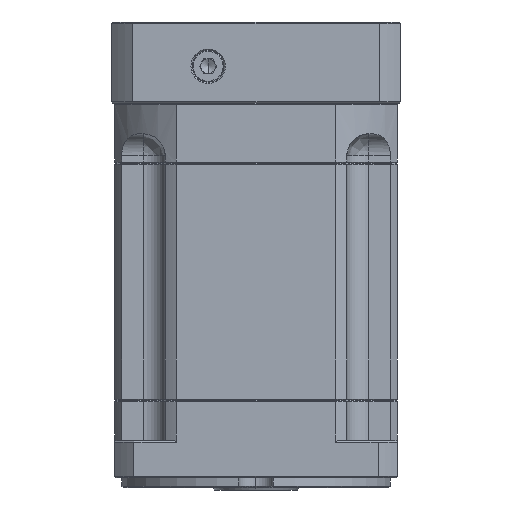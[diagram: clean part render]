
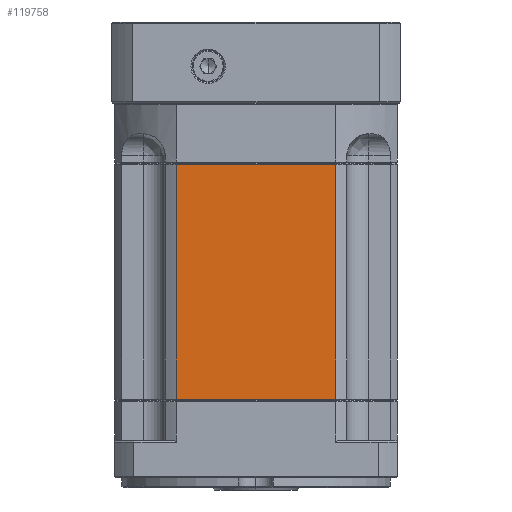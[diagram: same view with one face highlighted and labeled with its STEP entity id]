
A CAD part, left-side view. The second image highlights one B-rep face of the part: STEP entity #119758.
In plain terms, the highlighted planar face has unit normal (-1, 0, 0).
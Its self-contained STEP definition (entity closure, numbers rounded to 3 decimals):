
#618 = DIRECTION ( 'NONE',  ( 0., 0., -1. ) ) ;
#728 = DIRECTION ( 'NONE',  ( 0., 0., 1. ) ) ;
#809 = LINE ( 'NONE', #60858, #60607 ) ;
#2848 = EDGE_LOOP ( 'NONE', ( #104173, #99568, #98022, #116966 ) ) ;
#7315 = DIRECTION ( 'NONE',  ( 1., 0., 0. ) ) ;
#32837 = CARTESIAN_POINT ( 'NONE',  ( -92.746, -1.416, 188.502 ) ) ;
#36773 = CARTESIAN_POINT ( 'NONE',  ( -92.746, -58.916, 189.002 ) ) ;
#38061 = PLANE ( 'NONE',  #128995 ) ;
#39726 = CARTESIAN_POINT ( 'NONE',  ( -92.746, -58.916, 93.002 ) ) ;
#40907 = VERTEX_POINT ( 'NONE', #125269 ) ;
#44157 = EDGE_CURVE ( 'NONE', #83882, #107633, #809, .T. ) ;
#46057 = VECTOR ( 'NONE', #728, 1000. ) ;
#56728 = VECTOR ( 'NONE', #103298, 1000. ) ;
#60607 = VECTOR ( 'NONE', #618, 1000. ) ;
#60858 = CARTESIAN_POINT ( 'NONE',  ( -92.746, -33.816, -96.041 ) ) ;
#61395 = CARTESIAN_POINT ( 'NONE',  ( -92.746, 30.984, 189.002 ) ) ;
#61985 = FACE_OUTER_BOUND ( 'NONE', #2848, .T. ) ;
#64784 = EDGE_CURVE ( 'NONE', #40907, #67412, #72777, .T. ) ;
#67412 = VERTEX_POINT ( 'NONE', #79582 ) ;
#70426 = CARTESIAN_POINT ( 'NONE',  ( -92.746, -33.816, 188.502 ) ) ;
#71970 = CARTESIAN_POINT ( 'NONE',  ( -92.746, -33.816, 93.002 ) ) ;
#72777 = LINE ( 'NONE', #61395, #46057 ) ;
#79582 = CARTESIAN_POINT ( 'NONE',  ( -92.746, 30.984, 188.502 ) ) ;
#81483 = EDGE_CURVE ( 'NONE', #67412, #83882, #93126, .T. ) ;
#83882 = VERTEX_POINT ( 'NONE', #70426 ) ;
#93126 = LINE ( 'NONE', #32837, #56728 ) ;
#98022 = ORIENTED_EDGE ( 'NONE', *, *, #81483, .F. ) ;
#98799 = DIRECTION ( 'NONE',  ( 0., 1., 0. ) ) ;
#99568 = ORIENTED_EDGE ( 'NONE', *, *, #44157, .F. ) ;
#100472 = VECTOR ( 'NONE', #98799, 1000. ) ;
#103298 = DIRECTION ( 'NONE',  ( 0., -1., 0. ) ) ;
#104173 = ORIENTED_EDGE ( 'NONE', *, *, #117112, .F. ) ;
#107633 = VERTEX_POINT ( 'NONE', #71970 ) ;
#116966 = ORIENTED_EDGE ( 'NONE', *, *, #64784, .F. ) ;
#117112 = EDGE_CURVE ( 'NONE', #107633, #40907, #120832, .T. ) ;
#118161 = DIRECTION ( 'NONE',  ( 0., 1., 0. ) ) ;
#119758 = ADVANCED_FACE ( 'NONE', ( #61985 ), #38061, .F. ) ;
#120832 = LINE ( 'NONE', #39726, #100472 ) ;
#125269 = CARTESIAN_POINT ( 'NONE',  ( -92.746, 30.984, 93.002 ) ) ;
#128995 = AXIS2_PLACEMENT_3D ( 'NONE', #36773, #7315, #118161 ) ;
